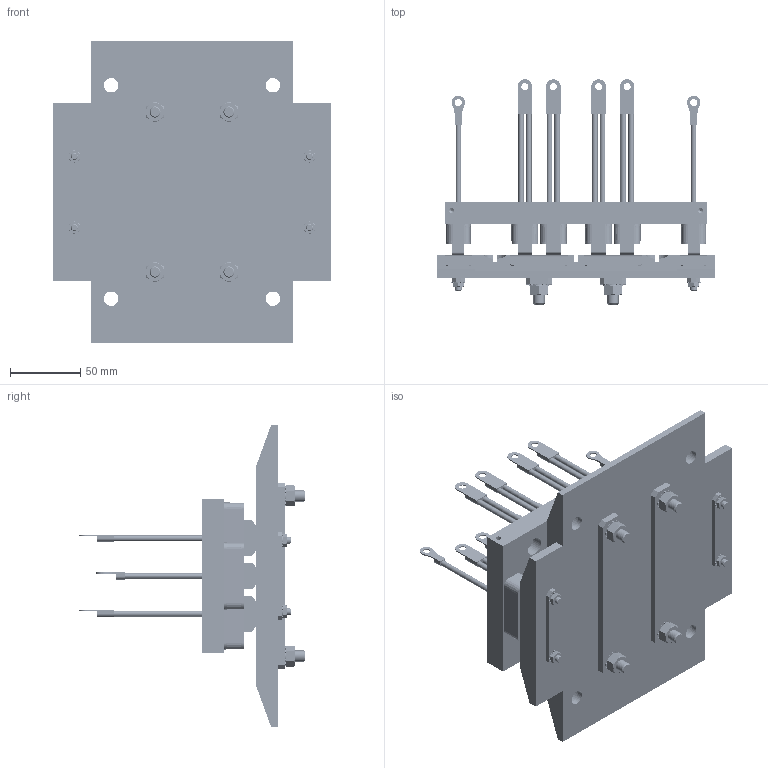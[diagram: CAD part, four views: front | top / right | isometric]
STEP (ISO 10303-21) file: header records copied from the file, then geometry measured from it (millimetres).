
FILE_DESCRIPTION (( 'STEP AP214' ), '1' );
FILE_NAME ('XA-BCL200A2WP.STEP', '2016-09-16T20:50:29', ( 'admin' ), ( 'Microsoft' ), 'SwSTEP 2.0', 'SolidWorks 2014', '' );
FILE_SCHEMA (( 'AUTOMOTIVE_DESIGN' ));
Length unit declared in the file: inch
Products named in the file (23): XA-568320_DEFAULT; XA-564422_B18.3.5M - 5 x 0.8 x 25 Socket FCHS  -- 25C; XA-564384_B18.21.2M-External Tooth Lock Washers_AM8; XA-563925; XA-564382_B18.3.5M - 8 x 1.25 x 35 Socket FCHS  -- 35C; XA-565023; XA-562899; XA-564988_XA-564988B; XA-564445; XA-564426_B18.21.2M-External Tooth Lock Washers_AM5; XA-100289_B18.2.4.1M - Hex nut, Style 1,  M8 x 1.25 --D-C; XA-564494; XA-BCB200A2WP; XA-564425; XA-564413; XA-BCC200A2WP; XA-562696_default; XA-562730; XA-564381_DEFAULT; XA-562727; XA-562687_XA-562687; XA-BCL200A2WP; XA-564491
Assembly tree (104 placements, depth 3):
  XA-BCL200A2WP
    XA-BCC200A2WP
      XA-564491
      XA-562696_default  x8
      XA-562730  x8
      XA-564381_DEFAULT  x20
      XA-562727  x2
      XA-562687_XA-562687  x2
      XA-564413  x20
    XA-BCB200A2WP
      XA-564494
      XA-564445  x2
      XA-564425  x2
      XA-562899  x2
      XA-564988_XA-564988B  x4
      XA-565023  x4
      XA-563925  x2
      XA-564382_B18.3.5M - 8 x 1.25 x 35 Socket FCHS  -- 35C  x4
      XA-564384_B18.21.2M-External Tooth Lock Washers_AM8  x4
      XA-564422_B18.3.5M - 5 x 0.8 x 25 Socket FCHS  -- 25C  x4
      XA-564426_B18.21.2M-External Tooth Lock Washers_AM5  x4
      XA-100289_B18.2.4.1M - Hex nut, Style 1,  M8 x 1.25 --D-C  x4
      XA-568320_DEFAULT  x4
Bounding box: 198.12 x 160.86 x 215.9 mm (x, y, z)
Volume: 1003384.9 mm3; surface area: 359690.8 mm2
Topology: 102 solids, 118 shells, 3246 faces, 7960 edges, 4964 vertices
Faces by surface type: plane 1540, cylinder 946, cone 584, bspline 120, torus 56
Entity records: 37485 total; most frequent: CARTESIAN_POINT 11803, DIRECTION 5202, ORIENTED_EDGE 4636, EDGE_CURVE 2318, AXIS2_PLACEMENT_3D 1924, VERTEX_POINT 1491, LINE 1354, VECTOR 1354
